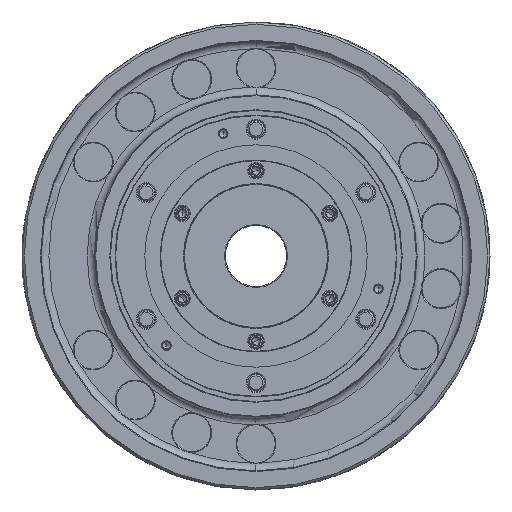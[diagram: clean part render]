
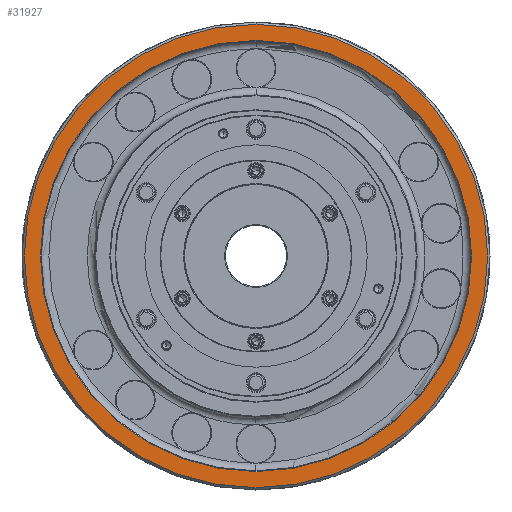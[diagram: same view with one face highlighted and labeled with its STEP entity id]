
A CAD part, left-side view. The second image highlights one B-rep face of the part: STEP entity #31927.
In plain terms, the highlighted planar face has unit normal (-1, 0, 0).
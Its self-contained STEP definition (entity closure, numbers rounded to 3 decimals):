
#1783 = CARTESIAN_POINT ( 'NONE',  ( -149., 0., -281. ) ) ;
#10598 = CARTESIAN_POINT ( 'NONE',  ( -149., 302., 0. ) ) ;
#14075 = CIRCLE ( 'NONE', #124010, 302. ) ;
#16681 = DIRECTION ( 'NONE',  ( -1., 0., 0. ) ) ;
#18055 = AXIS2_PLACEMENT_3D ( 'NONE', #94038, #150247, #152759 ) ;
#18319 = CIRCLE ( 'NONE', #193726, 281. ) ;
#31927 = ADVANCED_FACE ( 'NONE', ( #112749, #92325 ), #147233, .F. ) ;
#38863 = VERTEX_POINT ( 'NONE', #109992 ) ;
#40270 = EDGE_CURVE ( 'NONE', #167068, #68251, #144181, .T. ) ;
#51458 = DIRECTION ( 'NONE',  ( 0., 0., -1. ) ) ;
#61279 = CARTESIAN_POINT ( 'NONE',  ( -149., 0., 0. ) ) ;
#68251 = VERTEX_POINT ( 'NONE', #91002 ) ;
#86431 = EDGE_LOOP ( 'NONE', ( #116094, #188293 ) ) ;
#91002 = CARTESIAN_POINT ( 'NONE',  ( -149., 0., 281. ) ) ;
#92325 = FACE_OUTER_BOUND ( 'NONE', #86431, .T. ) ;
#94038 = CARTESIAN_POINT ( 'NONE',  ( -149., 0., 0. ) ) ;
#109992 = CARTESIAN_POINT ( 'NONE',  ( -149., 0., -302. ) ) ;
#112749 = FACE_BOUND ( 'NONE', #152960, .T. ) ;
#116094 = ORIENTED_EDGE ( 'NONE', *, *, #159227, .T. ) ;
#124010 = AXIS2_PLACEMENT_3D ( 'NONE', #61279, #16681, #235061 ) ;
#136374 = CIRCLE ( 'NONE', #18055, 302. ) ;
#140190 = AXIS2_PLACEMENT_3D ( 'NONE', #169740, #204323, #247694 ) ;
#143732 = EDGE_CURVE ( 'NONE', #225792, #38863, #136374, .T. ) ;
#144181 = CIRCLE ( 'NONE', #140190, 281. ) ;
#147233 = PLANE ( 'NONE',  #194861 ) ;
#148305 = DIRECTION ( 'NONE',  ( -1., 0., 0. ) ) ;
#150247 = DIRECTION ( 'NONE',  ( -1., 0., 0. ) ) ;
#152759 = DIRECTION ( 'NONE',  ( 0., 0., 1. ) ) ;
#152960 = EDGE_LOOP ( 'NONE', ( #251817, #198623 ) ) ;
#159227 = EDGE_CURVE ( 'NONE', #38863, #225792, #14075, .T. ) ;
#159694 = EDGE_CURVE ( 'NONE', #68251, #167068, #18319, .T. ) ;
#167068 = VERTEX_POINT ( 'NONE', #1783 ) ;
#169740 = CARTESIAN_POINT ( 'NONE',  ( -149., 0., 0. ) ) ;
#182684 = CARTESIAN_POINT ( 'NONE',  ( -149., 0., 302. ) ) ;
#188293 = ORIENTED_EDGE ( 'NONE', *, *, #143732, .T. ) ;
#193726 = AXIS2_PLACEMENT_3D ( 'NONE', #204608, #148305, #226309 ) ;
#194861 = AXIS2_PLACEMENT_3D ( 'NONE', #10598, #244375, #51458 ) ;
#198623 = ORIENTED_EDGE ( 'NONE', *, *, #40270, .F. ) ;
#204323 = DIRECTION ( 'NONE',  ( -1., 0., 0. ) ) ;
#204608 = CARTESIAN_POINT ( 'NONE',  ( -149., 0., 0. ) ) ;
#225792 = VERTEX_POINT ( 'NONE', #182684 ) ;
#226309 = DIRECTION ( 'NONE',  ( 0., 0., 1. ) ) ;
#235061 = DIRECTION ( 'NONE',  ( 0., 0., 1. ) ) ;
#244375 = DIRECTION ( 'NONE',  ( 1., 0., 0. ) ) ;
#247694 = DIRECTION ( 'NONE',  ( 0., 0., 1. ) ) ;
#251817 = ORIENTED_EDGE ( 'NONE', *, *, #159694, .F. ) ;
